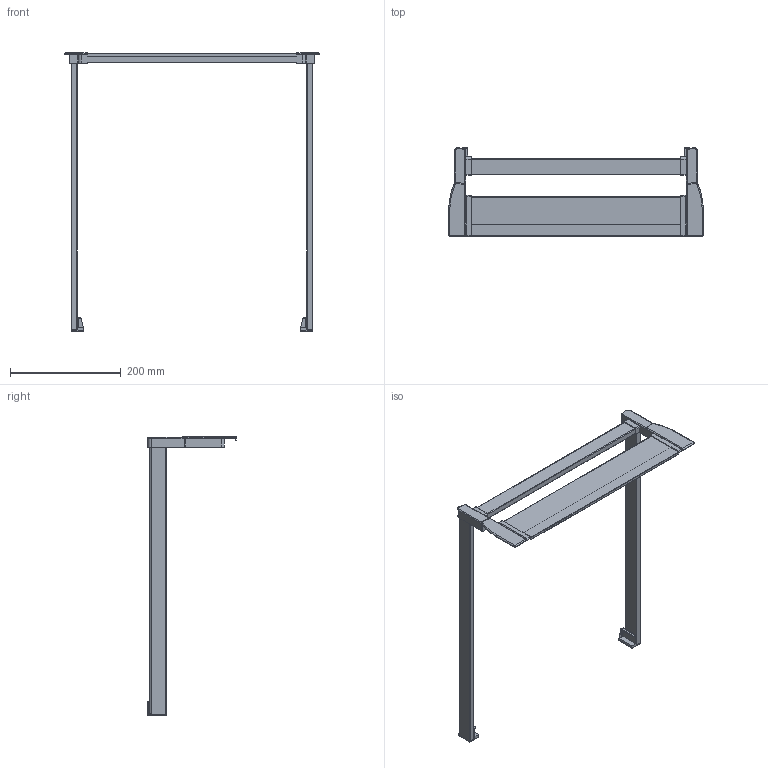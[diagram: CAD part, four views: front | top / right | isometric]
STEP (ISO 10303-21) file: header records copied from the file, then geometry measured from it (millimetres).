
FILE_DESCRIPTION (( 'STEP AP214' ), '1' );
FILE_NAME ('1_P620_NL 500_KAB 500_16er KS_.step', '2009-09-16T06:29:57', ( 'Waldinger Reinhard' ), ( 'Grass GmbH' ), 'SwSTEP 2.0', 'SolidWorks 2009', '' );
FILE_SCHEMA (( 'AUTOMOTIVE_DESIGN' ));
Length unit declared in the file: millimetre
Products named in the file (1): 1_P620_NL 500_KAB 500_16er KS_
Bounding box: 459.6 x 160.5 x 502.8 mm (x, y, z)
Volume: 872071.8 mm3; surface area: 208838.9 mm2
Topology: 1 solids, 1 shells, 220 faces, 578 edges, 364 vertices
Faces by surface type: plane 97, cylinder 91, torus 28, sphere 2, bspline 2
Entity records: 7004 total; most frequent: CARTESIAN_POINT 1345, DIRECTION 1198, ORIENTED_EDGE 1152, EDGE_CURVE 576, AXIS2_PLACEMENT_3D 433, VERTEX_POINT 364, VECTOR 332, LINE 332
